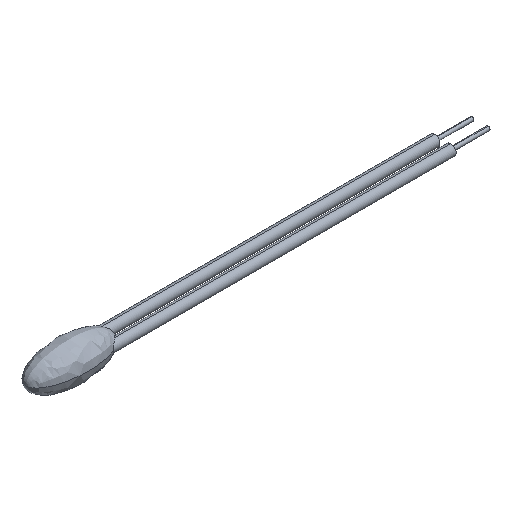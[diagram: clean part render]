
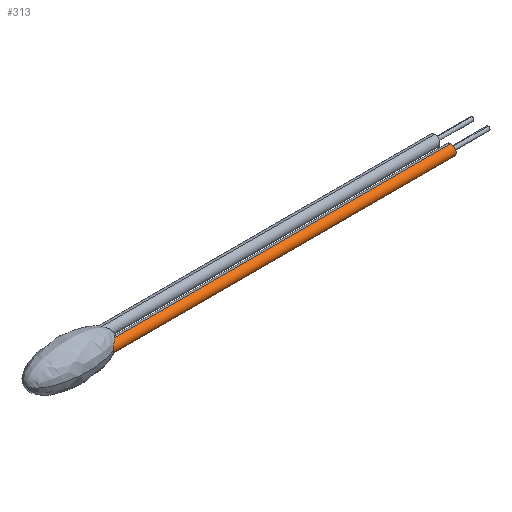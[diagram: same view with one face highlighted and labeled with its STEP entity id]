
A CAD part, isometric view. The second image highlights one B-rep face of the part: STEP entity #313.
In plain terms, the highlighted cylindrical face has radius 0.425 mm (diameter 0.85 mm), a partial arc.
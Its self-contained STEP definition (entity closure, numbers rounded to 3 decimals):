
#5 = CARTESIAN_POINT ( 'NONE',  ( 2.768, -0.835, 0.386 ) ) ;
#6 = B_SPLINE_CURVE_WITH_KNOTS ( 'NONE', 3,
 ( #20, #180, #345, #505, #140, #302, #466, #100, #263, #426 ),
 .UNSPECIFIED., .F., .F.,
 ( 4, 2, 2, 2, 4 ),
 ( 0.001, 0.001, 0.001, 0.002, 0.002 ),
 .UNSPECIFIED. ) ;
#15 = LINE ( 'NONE', #97, #500 ) ;
#20 = CARTESIAN_POINT ( 'NONE',  ( 2.441, -1.075, 0. ) ) ;
#27 = DIRECTION ( 'NONE',  ( 0., 0., 1. ) ) ;
#49 = VERTEX_POINT ( 'NONE', #229 ) ;
#53 = ORIENTED_EDGE ( 'NONE', *, *, #502, .T. ) ;
#67 = CYLINDRICAL_SURFACE ( 'NONE', #168, 0.425 ) ;
#90 = CARTESIAN_POINT ( 'NONE',  ( 30., -0.65, 0. ) ) ;
#96 = EDGE_CURVE ( 'NONE', #49, #279, #113, .T. ) ;
#97 = CARTESIAN_POINT ( 'NONE',  ( 31.202, -0.65, 0.425 ) ) ;
#100 = CARTESIAN_POINT ( 'NONE',  ( 2.881, -0.744, -0.417 ) ) ;
#109 = CARTESIAN_POINT ( 'NONE',  ( 2.994, -0.65, -0.425 ) ) ;
#111 = B_SPLINE_CURVE_WITH_KNOTS ( 'NONE', 3,
 ( #447, #204, #366, #5, #162, #325, #487, #123, #285, #448 ),
 .UNSPECIFIED., .F., .F.,
 ( 4, 2, 2, 2, 4 ),
 ( 0., 0., 0., 0.001, 0.001 ),
 .UNSPECIFIED. ) ;
#113 = CIRCLE ( 'NONE', #395, 0.425 ) ;
#115 = VERTEX_POINT ( 'NONE', #129 ) ;
#117 = ORIENTED_EDGE ( 'NONE', *, *, #210, .T. ) ;
#123 = CARTESIAN_POINT ( 'NONE',  ( 2.472, -1.054, 0.146 ) ) ;
#129 = CARTESIAN_POINT ( 'NONE',  ( 2.994, -0.65, 0.425 ) ) ;
#140 = CARTESIAN_POINT ( 'NONE',  ( 2.605, -0.958, -0.297 ) ) ;
#162 = CARTESIAN_POINT ( 'NONE',  ( 2.712, -0.878, 0.362 ) ) ;
#168 = AXIS2_PLACEMENT_3D ( 'NONE', #228, #387, #27 ) ;
#180 = CARTESIAN_POINT ( 'NONE',  ( 2.441, -1.075, -0.075 ) ) ;
#195 = LINE ( 'NONE', #358, #474 ) ;
#204 = CARTESIAN_POINT ( 'NONE',  ( 2.937, -0.698, 0.425 ) ) ;
#210 = EDGE_CURVE ( 'NONE', #49, #115, #15, .T. ) ;
#223 = CARTESIAN_POINT ( 'NONE',  ( 2.441, -1.075, 0. ) ) ;
#228 = CARTESIAN_POINT ( 'NONE',  ( 31.202, -0.65, 0. ) ) ;
#229 = CARTESIAN_POINT ( 'NONE',  ( 30., -0.65, 0.425 ) ) ;
#237 = VERTEX_POINT ( 'NONE', #223 ) ;
#249 = EDGE_CURVE ( 'NONE', #237, #384, #6, .T. ) ;
#252 = DIRECTION ( 'NONE',  ( 1., 0., 0. ) ) ;
#256 = DIRECTION ( 'NONE',  ( -1., 0., 0. ) ) ;
#263 = CARTESIAN_POINT ( 'NONE',  ( 2.938, -0.698, -0.425 ) ) ;
#279 = VERTEX_POINT ( 'NONE', #428 ) ;
#285 = CARTESIAN_POINT ( 'NONE',  ( 2.441, -1.075, 0.075 ) ) ;
#291 = ORIENTED_EDGE ( 'NONE', *, *, #434, .F. ) ;
#302 = CARTESIAN_POINT ( 'NONE',  ( 2.712, -0.878, -0.362 ) ) ;
#313 = ADVANCED_FACE ( 'NONE', ( #430 ), #67, .T. ) ;
#325 = CARTESIAN_POINT ( 'NONE',  ( 2.605, -0.958, 0.297 ) ) ;
#345 = CARTESIAN_POINT ( 'NONE',  ( 2.472, -1.054, -0.146 ) ) ;
#356 = ORIENTED_EDGE ( 'NONE', *, *, #249, .T. ) ;
#358 = CARTESIAN_POINT ( 'NONE',  ( 31.202, -0.65, -0.425 ) ) ;
#366 = CARTESIAN_POINT ( 'NONE',  ( 2.881, -0.745, 0.417 ) ) ;
#384 = VERTEX_POINT ( 'NONE', #109 ) ;
#387 = DIRECTION ( 'NONE',  ( -1., 0., 0. ) ) ;
#395 = AXIS2_PLACEMENT_3D ( 'NONE', #90, #252, #414 ) ;
#414 = DIRECTION ( 'NONE',  ( 0., 0., -1. ) ) ;
#426 = CARTESIAN_POINT ( 'NONE',  ( 2.994, -0.65, -0.425 ) ) ;
#428 = CARTESIAN_POINT ( 'NONE',  ( 30., -0.65, -0.425 ) ) ;
#430 = FACE_OUTER_BOUND ( 'NONE', #507, .T. ) ;
#434 = EDGE_CURVE ( 'NONE', #279, #384, #195, .T. ) ;
#439 = ORIENTED_EDGE ( 'NONE', *, *, #96, .F. ) ;
#447 = CARTESIAN_POINT ( 'NONE',  ( 2.994, -0.65, 0.425 ) ) ;
#448 = CARTESIAN_POINT ( 'NONE',  ( 2.441, -1.075, 0. ) ) ;
#466 = CARTESIAN_POINT ( 'NONE',  ( 2.768, -0.835, -0.386 ) ) ;
#474 = VECTOR ( 'NONE', #521, 1000. ) ;
#487 = CARTESIAN_POINT ( 'NONE',  ( 2.554, -0.995, 0.255 ) ) ;
#500 = VECTOR ( 'NONE', #256, 1000. ) ;
#502 = EDGE_CURVE ( 'NONE', #115, #237, #111, .T. ) ;
#505 = CARTESIAN_POINT ( 'NONE',  ( 2.554, -0.995, -0.255 ) ) ;
#507 = EDGE_LOOP ( 'NONE', ( #291, #439, #117, #53, #356 ) ) ;
#521 = DIRECTION ( 'NONE',  ( -1., 0., 0. ) ) ;
